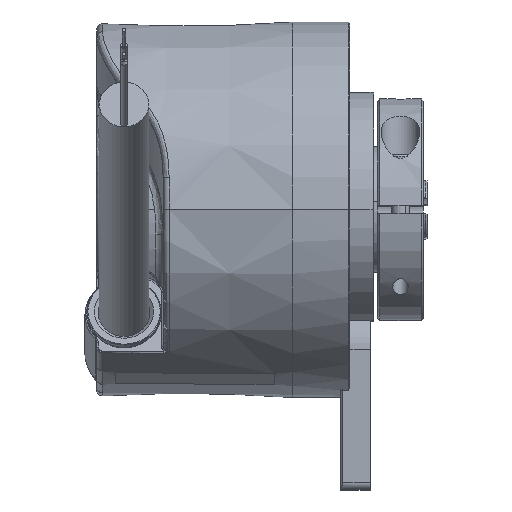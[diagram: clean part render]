
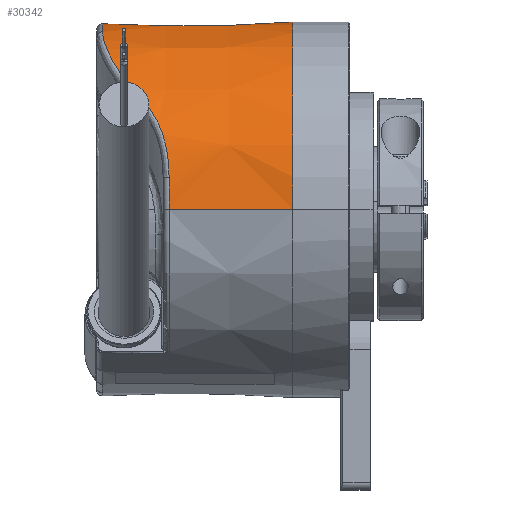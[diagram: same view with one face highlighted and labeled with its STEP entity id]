
A CAD part, top view. The second image highlights one B-rep face of the part: STEP entity #30342.
In plain terms, the highlighted conical face has half-angle 0.5 degrees and reference radius 25.4 mm.
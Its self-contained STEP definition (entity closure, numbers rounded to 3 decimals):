
#450 = CARTESIAN_POINT ( 'NONE',  ( -19.128, 20.62, 14.476 ) ) ;
#493 = ORIENTED_EDGE ( 'NONE', *, *, #31334, .T. ) ;
#550 = ORIENTED_EDGE ( 'NONE', *, *, #9184, .T. ) ;
#627 = CARTESIAN_POINT ( 'NONE',  ( -20.207, 0., 0. ) ) ;
#1356 = VERTEX_POINT ( 'NONE', #17936 ) ;
#2390 = CARTESIAN_POINT ( 'NONE',  ( -18.5, 22.055, -12.172 ) ) ;
#2401 = AXIS2_PLACEMENT_3D ( 'NONE', #8630, #31300, #11911 ) ;
#2522 = CARTESIAN_POINT ( 'NONE',  ( -14.829, 14.821, 20.409 ) ) ;
#2663 = CARTESIAN_POINT ( 'NONE',  ( -11.207, 4.33, 24.88 ) ) ;
#3137 = AXIS2_PLACEMENT_3D ( 'NONE', #10938, #33610, #14213 ) ;
#3742 = CARTESIAN_POINT ( 'NONE',  ( -18.425, 19.383, 16.104 ) ) ;
#3920 = DIRECTION ( 'NONE',  ( 0., 0., -1. ) ) ;
#4763 = CARTESIAN_POINT ( 'NONE',  ( -20.207, 0., -25.176 ) ) ;
#5204 = ORIENTED_EDGE ( 'NONE', *, *, #17961, .F. ) ;
#5507 = CARTESIAN_POINT ( 'NONE',  ( 3., 23.674, -9.144 ) ) ;
#5830 = CARTESIAN_POINT ( 'NONE',  ( -14.217, 14.146, 20.894 ) ) ;
#6753 = CIRCLE ( 'NONE', #3137, 25.378 ) ;
#6953 = EDGE_CURVE ( 'NONE', #22323, #37395, #21130, .T. ) ;
#7071 = CARTESIAN_POINT ( 'NONE',  ( -17.544, 18.06, 17.585 ) ) ;
#7224 = ORIENTED_EDGE ( 'NONE', *, *, #13986, .T. ) ;
#7308 = VERTEX_POINT ( 'NONE', #21729 ) ;
#8630 = CARTESIAN_POINT ( 'NONE',  ( -18.5, 0., 0. ) ) ;
#8999 = CARTESIAN_POINT ( 'NONE',  ( 3., 22.222, -12.257 ) ) ;
#9126 = CARTESIAN_POINT ( 'NONE',  ( -13.412, 13.037, 21.611 ) ) ;
#9184 = EDGE_CURVE ( 'NONE', #1356, #7308, #25118, .T. ) ;
#9719 = CARTESIAN_POINT ( 'NONE',  ( 5.5, 0., 0. ) ) ;
#9935 = AXIS2_PLACEMENT_3D ( 'NONE', #627, #23472, #3920 ) ;
#10307 = DIRECTION ( 'NONE',  ( 0., 0., -1. ) ) ;
#10330 = DIRECTION ( 'NONE',  ( 1., 0., 0.009 ) ) ;
#10348 = CARTESIAN_POINT ( 'NONE',  ( -15.723, 15.751, 19.724 ) ) ;
#10762 = AXIS2_PLACEMENT_3D ( 'NONE', #31618, #12220, #34874 ) ;
#10938 = CARTESIAN_POINT ( 'NONE',  ( 3., 0., 0. ) ) ;
#11799 = VECTOR ( 'NONE', #19596, 1000. ) ;
#11911 = DIRECTION ( 'NONE',  ( 0., 1., 0. ) ) ;
#12108 = FACE_BOUND ( 'NONE', #24758, .T. ) ;
#12220 = DIRECTION ( 'NONE',  ( 1., 0., 0. ) ) ;
#12408 = CARTESIAN_POINT ( 'NONE',  ( -12.342, 11.018, 22.734 ) ) ;
#12634 = VERTEX_POINT ( 'NONE', #16230 ) ;
#12699 = CARTESIAN_POINT ( 'NONE',  ( 3., 23.674, -9.144 ) ) ;
#12998 = DIRECTION ( 'NONE',  ( 0., 0., -1. ) ) ;
#13159 = ORIENTED_EDGE ( 'NONE', *, *, #30623, .T. ) ;
#13986 = EDGE_CURVE ( 'NONE', #17743, #17707, #40099, .T. ) ;
#14178 = ORIENTED_EDGE ( 'NONE', *, *, #36867, .F. ) ;
#14213 = DIRECTION ( 'NONE',  ( 0., 1., 0. ) ) ;
#14561 = ORIENTED_EDGE ( 'NONE', *, *, #41367, .T. ) ;
#14850 = EDGE_CURVE ( 'NONE', #17707, #1356, #17254, .T. ) ;
#14938 = CARTESIAN_POINT ( 'NONE',  ( -18.5, 23.501, -9.071 ) ) ;
#15657 = CARTESIAN_POINT ( 'NONE',  ( -11.771, 9.207, 23.516 ) ) ;
#15704 = ORIENTED_EDGE ( 'NONE', *, *, #35057, .F. ) ;
#16230 = CARTESIAN_POINT ( 'NONE',  ( -11.207, 4.33, 24.88 ) ) ;
#16341 = CARTESIAN_POINT ( 'NONE',  ( 5.5, 0., -25.4 ) ) ;
#16754 = CARTESIAN_POINT ( 'NONE',  ( -19.793, 22.111, 12.067 ) ) ;
#17254 = CIRCLE ( 'NONE', #2401, 25.191 ) ;
#17383 = CIRCLE ( 'NONE', #10762, 25.254 ) ;
#17707 = VERTEX_POINT ( 'NONE', #14938 ) ;
#17743 = VERTEX_POINT ( 'NONE', #5507 ) ;
#17936 = CARTESIAN_POINT ( 'NONE',  ( -18.5, 22.055, -12.172 ) ) ;
#17961 = EDGE_CURVE ( 'NONE', #33459, #25810, #37633, .T. ) ;
#18921 = CARTESIAN_POINT ( 'NONE',  ( -11.471, 7.788, 24.026 ) ) ;
#19067 = CARTESIAN_POINT ( 'NONE',  ( -4.167, 23.616, -9.12 ) ) ;
#19142 = ORIENTED_EDGE ( 'NONE', *, *, #14850, .T. ) ;
#19543 = B_SPLINE_CURVE_WITH_KNOTS ( 'NONE', 3,
 ( #2522, #38158, #5830, #28540, #9126, #31786, #12408, #35052, #15657, #38287, #18921, #41606, #22203, #2663 ),
 .UNSPECIFIED., .F., .F.,
 ( 4, 2, 2, 2, 2, 2, 4 ),
 ( 0., 0.002, 0.003, 0.006, 0.008, 0.009, 0.012 ),
 .UNSPECIFIED. ) ;
#19596 = DIRECTION ( 'NONE',  ( 1., 0., -0.009 ) ) ;
#20018 = CARTESIAN_POINT ( 'NONE',  ( -19.324, 21.012, 13.899 ) ) ;
#21130 = LINE ( 'NONE', #29870, #38306 ) ;
#21388 = CARTESIAN_POINT ( 'NONE',  ( -11.207, 0., 25.254 ) ) ;
#21514 = CARTESIAN_POINT ( 'NONE',  ( -11.333, 22.11, -12.201 ) ) ;
#21729 = CARTESIAN_POINT ( 'NONE',  ( 3., 22.222, -12.257 ) ) ;
#21911 = EDGE_LOOP ( 'NONE', ( #36657, #32304, #14178, #5204, #14561, #493, #13159 ) ) ;
#22203 = CARTESIAN_POINT ( 'NONE',  ( -11.207, 5.346, 24.703 ) ) ;
#22323 = VERTEX_POINT ( 'NONE', #21388 ) ;
#22635 = CARTESIAN_POINT ( 'NONE',  ( -20.207, 24.055, 7.427 ) ) ;
#23147 = CARTESIAN_POINT ( 'NONE',  ( -14.829, 14.821, 20.409 ) ) ;
#23307 = CARTESIAN_POINT ( 'NONE',  ( -18.679, 19.805, 15.579 ) ) ;
#23472 = DIRECTION ( 'NONE',  ( 1., 0., 0. ) ) ;
#24495 = AXIS2_PLACEMENT_3D ( 'NONE', #9719, #32377, #12998 ) ;
#24758 = EDGE_LOOP ( 'NONE', ( #7224, #19142, #550, #15704 ) ) ;
#25118 = B_SPLINE_CURVE_WITH_KNOTS ( 'NONE', 3,
 ( #2390, #21514, #28419, #8999 ),
 .UNSPECIFIED., .F., .F.,
 ( 4, 4 ),
 ( 0., 0.022 ),
 .UNSPECIFIED. ) ;
#25598 = CARTESIAN_POINT ( 'NONE',  ( -11.333, 23.558, -9.095 ) ) ;
#25810 = VERTEX_POINT ( 'NONE', #36087 ) ;
#26505 = CARTESIAN_POINT ( 'NONE',  ( -17.858, 18.51, 17.107 ) ) ;
#27249 = EDGE_CURVE ( 'NONE', #12634, #22323, #17383, .T. ) ;
#28419 = CARTESIAN_POINT ( 'NONE',  ( -4.167, 22.166, -12.229 ) ) ;
#28540 = CARTESIAN_POINT ( 'NONE',  ( -13.666, 13.417, 21.374 ) ) ;
#29618 = CARTESIAN_POINT ( 'NONE',  ( -20.207, 23.624, 8.823 ) ) ;
#29748 = CARTESIAN_POINT ( 'NONE',  ( -16.513, 16.684, 18.94 ) ) ;
#29870 = CARTESIAN_POINT ( 'NONE',  ( 5.5, 0., 25.4 ) ) ;
#30342 = ADVANCED_FACE ( 'NONE', ( #12108, #36932 ), #35916, .T. ) ;
#30623 = EDGE_CURVE ( 'NONE', #39732, #12634, #19543, .T. ) ;
#30901 = B_SPLINE_CURVE_WITH_KNOTS ( 'NONE', 3,
 ( #35151, #29618, #36129, #16754, #39383, #20018, #450, #23307, #3742, #26505, #7071, #29748, #10348, #33028 ),
 .UNSPECIFIED., .F., .F.,
 ( 4, 2, 2, 2, 2, 2, 4 ),
 ( 0., 0.004, 0.006, 0.009, 0.011, 0.013, 0.017 ),
 .UNSPECIFIED. ) ;
#31300 = DIRECTION ( 'NONE',  ( -1., 0., 0. ) ) ;
#31334 = EDGE_CURVE ( 'NONE', #38057, #39732, #30901, .T. ) ;
#31618 = CARTESIAN_POINT ( 'NONE',  ( -11.207, 0., 0. ) ) ;
#31786 = CARTESIAN_POINT ( 'NONE',  ( -12.718, 11.858, 22.301 ) ) ;
#32304 = ORIENTED_EDGE ( 'NONE', *, *, #6953, .T. ) ;
#32377 = DIRECTION ( 'NONE',  ( 1., 0., 0. ) ) ;
#32987 = CARTESIAN_POINT ( 'NONE',  ( 5.5, 0., 0. ) ) ;
#33028 = CARTESIAN_POINT ( 'NONE',  ( -14.829, 14.821, 20.409 ) ) ;
#33459 = VERTEX_POINT ( 'NONE', #4763 ) ;
#33610 = DIRECTION ( 'NONE',  ( -1., 0., 0. ) ) ;
#33627 = CIRCLE ( 'NONE', #24495, 25.4 ) ;
#34330 = AXIS2_PLACEMENT_3D ( 'NONE', #32987, #36231, #10307 ) ;
#34874 = DIRECTION ( 'NONE',  ( 0., 0., 1. ) ) ;
#35052 = CARTESIAN_POINT ( 'NONE',  ( -11.899, 9.672, 23.327 ) ) ;
#35057 = EDGE_CURVE ( 'NONE', #17743, #7308, #6753, .T. ) ;
#35151 = CARTESIAN_POINT ( 'NONE',  ( -20.207, 24.055, 7.427 ) ) ;
#35337 = CARTESIAN_POINT ( 'NONE',  ( -18.5, 23.501, -9.071 ) ) ;
#35916 = CONICAL_SURFACE ( 'NONE', #34330, 25.4, 0.009 ) ;
#36087 = CARTESIAN_POINT ( 'NONE',  ( 5.5, 0., -25.4 ) ) ;
#36129 = CARTESIAN_POINT ( 'NONE',  ( -20.111, 23.081, 10.157 ) ) ;
#36231 = DIRECTION ( 'NONE',  ( 1., 0., 0. ) ) ;
#36597 = CARTESIAN_POINT ( 'NONE',  ( 5.5, 0., 25.4 ) ) ;
#36657 = ORIENTED_EDGE ( 'NONE', *, *, #27249, .T. ) ;
#36867 = EDGE_CURVE ( 'NONE', #25810, #37395, #33627, .T. ) ;
#36932 = FACE_OUTER_BOUND ( 'NONE', #21911, .T. ) ;
#37338 = CIRCLE ( 'NONE', #9935, 25.176 ) ;
#37395 = VERTEX_POINT ( 'NONE', #36597 ) ;
#37633 = LINE ( 'NONE', #16341, #11799 ) ;
#38057 = VERTEX_POINT ( 'NONE', #22635 ) ;
#38158 = CARTESIAN_POINT ( 'NONE',  ( -14.513, 14.492, 20.651 ) ) ;
#38287 = CARTESIAN_POINT ( 'NONE',  ( -11.557, 8.265, 23.865 ) ) ;
#38306 = VECTOR ( 'NONE', #10330, 1000. ) ;
#39383 = CARTESIAN_POINT ( 'NONE',  ( -19.657, 21.761, 12.69 ) ) ;
#39732 = VERTEX_POINT ( 'NONE', #23147 ) ;
#40099 = B_SPLINE_CURVE_WITH_KNOTS ( 'NONE', 3,
 ( #12699, #19067, #25598, #35337 ),
 .UNSPECIFIED., .F., .F.,
 ( 4, 4 ),
 ( 0., 0.022 ),
 .UNSPECIFIED. ) ;
#41367 = EDGE_CURVE ( 'NONE', #33459, #38057, #37338, .T. ) ;
#41606 = CARTESIAN_POINT ( 'NONE',  ( -11.268, 6.338, 24.466 ) ) ;
